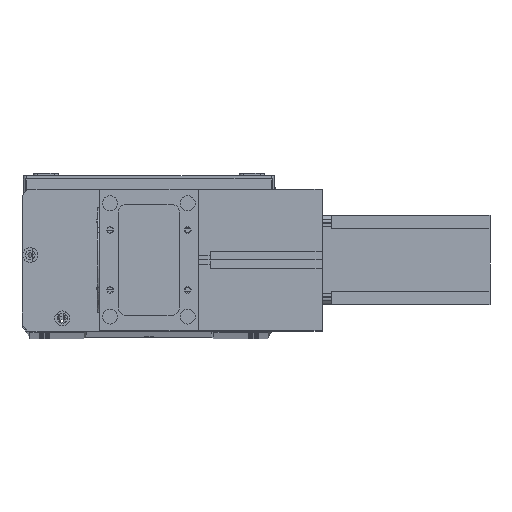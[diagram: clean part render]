
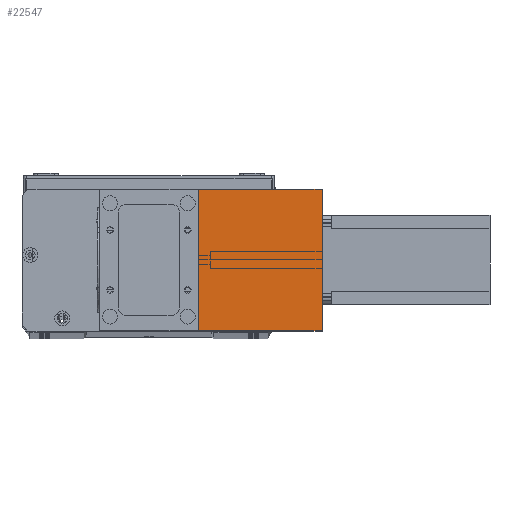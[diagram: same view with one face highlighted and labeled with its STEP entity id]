
A CAD part, top view. The second image highlights one B-rep face of the part: STEP entity #22547.
In plain terms, the highlighted planar face has unit normal (0, 0, 1) as drawn and (1, 0, 0) by its records, which use the part's own axes.
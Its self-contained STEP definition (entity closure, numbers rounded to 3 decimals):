
#631 = EDGE_CURVE ( 'NONE', #12428, #13104, #13902, .T. ) ;
#798 = CARTESIAN_POINT ( 'NONE',  ( 82., 0., 83. ) ) ;
#3210 = EDGE_CURVE ( 'NONE', #25242, #19144, #8612, .T. ) ;
#3497 = PLANE ( 'NONE',  #19845 ) ;
#4250 = DIRECTION ( 'NONE',  ( 0., 1., 0. ) ) ;
#4562 = CARTESIAN_POINT ( 'NONE',  ( 82., 0., 0. ) ) ;
#4839 = EDGE_CURVE ( 'NONE', #12428, #25242, #29000, .T. ) ;
#7668 = VECTOR ( 'NONE', #7830, 1000. ) ;
#7830 = DIRECTION ( 'NONE',  ( 0., 1., 0. ) ) ;
#7930 = CARTESIAN_POINT ( 'NONE',  ( 82., 0., 83. ) ) ;
#8612 = LINE ( 'NONE', #4562, #20407 ) ;
#8793 = CARTESIAN_POINT ( 'NONE',  ( 82., 95., 0. ) ) ;
#9044 = CARTESIAN_POINT ( 'NONE',  ( 82., 95., 83. ) ) ;
#10793 = DIRECTION ( 'NONE',  ( 0., 0., 1. ) ) ;
#12428 = VERTEX_POINT ( 'NONE', #798 ) ;
#13104 = VERTEX_POINT ( 'NONE', #13112 ) ;
#13112 = CARTESIAN_POINT ( 'NONE',  ( 82., 95., 83. ) ) ;
#13902 = LINE ( 'NONE', #7930, #7668 ) ;
#13923 = CARTESIAN_POINT ( 'NONE',  ( 82., 0., 0. ) ) ;
#14959 = DIRECTION ( 'NONE',  ( 0., 0., -1. ) ) ;
#15465 = CARTESIAN_POINT ( 'NONE',  ( 82., 0., 83. ) ) ;
#17271 = VECTOR ( 'NONE', #14959, 1000. ) ;
#18879 = ORIENTED_EDGE ( 'NONE', *, *, #4839, .T. ) ;
#18887 = ORIENTED_EDGE ( 'NONE', *, *, #30448, .F. ) ;
#19144 = VERTEX_POINT ( 'NONE', #8793 ) ;
#19845 = AXIS2_PLACEMENT_3D ( 'NONE', #27096, #24834, #10793 ) ;
#20407 = VECTOR ( 'NONE', #4250, 1000. ) ;
#21239 = EDGE_LOOP ( 'NONE', ( #28389, #18887, #26425, #18879 ) ) ;
#22547 = ADVANCED_FACE ( 'NONE', ( #26477 ), #3497, .F. ) ;
#24834 = DIRECTION ( 'NONE',  ( -1., 0., 0. ) ) ;
#25242 = VERTEX_POINT ( 'NONE', #13923 ) ;
#25441 = DIRECTION ( 'NONE',  ( 0., 0., -1. ) ) ;
#26425 = ORIENTED_EDGE ( 'NONE', *, *, #631, .F. ) ;
#26477 = FACE_OUTER_BOUND ( 'NONE', #21239, .T. ) ;
#26763 = LINE ( 'NONE', #9044, #27489 ) ;
#27096 = CARTESIAN_POINT ( 'NONE',  ( 82., 0., 83. ) ) ;
#27489 = VECTOR ( 'NONE', #25441, 1000. ) ;
#28389 = ORIENTED_EDGE ( 'NONE', *, *, #3210, .T. ) ;
#29000 = LINE ( 'NONE', #15465, #17271 ) ;
#30448 = EDGE_CURVE ( 'NONE', #13104, #19144, #26763, .T. ) ;
